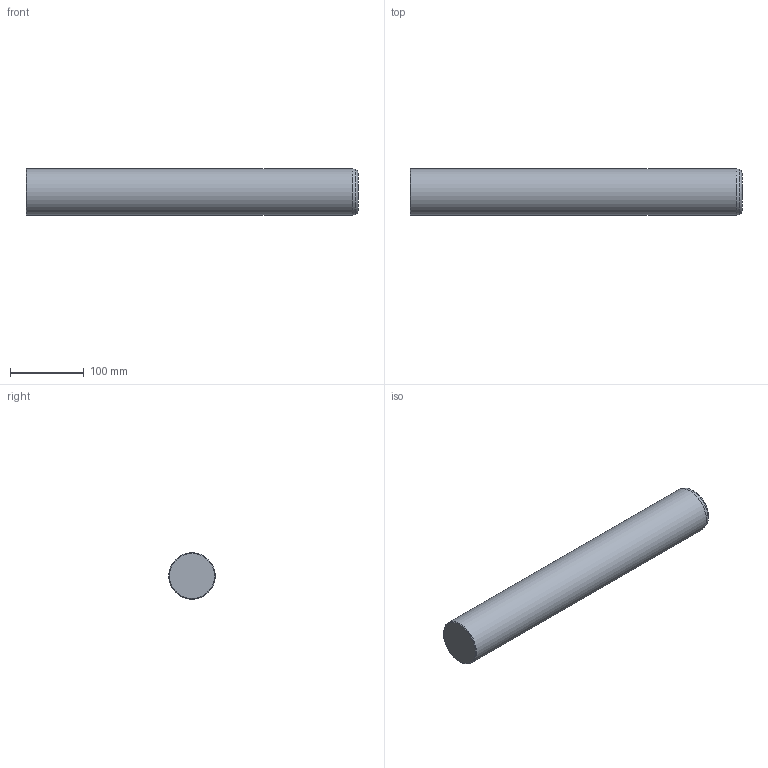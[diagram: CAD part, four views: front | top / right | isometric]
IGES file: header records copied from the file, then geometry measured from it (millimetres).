
Global section: file name: CIS63450.ipt; native system: Autodesk Inventor 2021; preprocessor: unknown; author: SM; date: 20211220.124822; units: millimetre
Bounding box: 450 x 63 x 63 mm (x, y, z)
Volume: 1400578.3 mm3; surface area: 94569.2 mm2
Topology: 1 solids, 1 shells, 6 faces, 11 edges, 7 vertices
Faces by surface type: cone 2, plane 2, revolution 1, cylinder 1
Full cylindrical faces by diameter (mm): 63 x1
